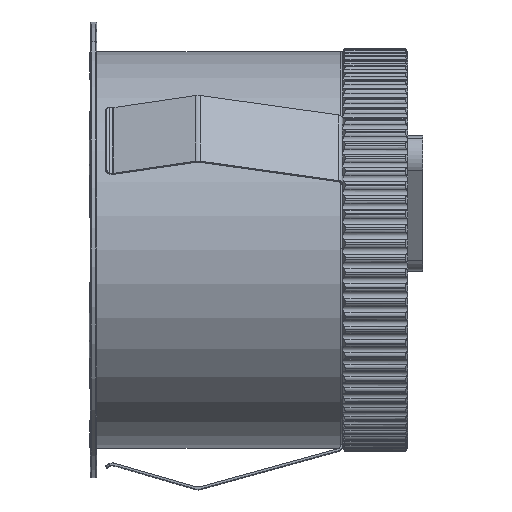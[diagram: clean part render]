
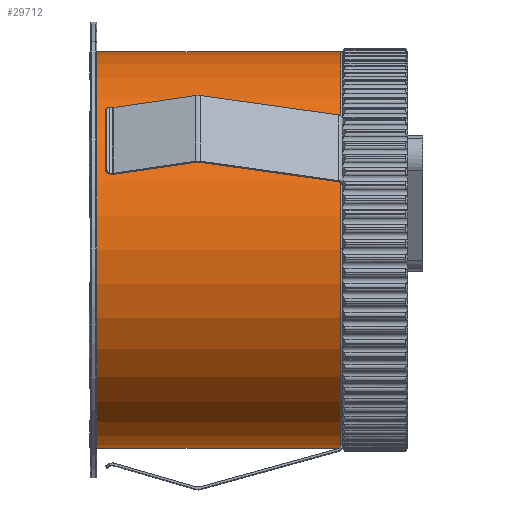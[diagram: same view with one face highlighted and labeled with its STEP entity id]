
A CAD part, left-side view. The second image highlights one B-rep face of the part: STEP entity #29712.
In plain terms, the highlighted cylindrical face has radius 26 mm (diameter 52 mm), a partial arc.
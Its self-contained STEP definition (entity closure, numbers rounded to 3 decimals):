
#620 = DIRECTION ( 'NONE',  ( 0., 1., 0. ) ) ;
#721 = ORIENTED_EDGE ( 'NONE', *, *, #14039, .F. ) ;
#2481 = CARTESIAN_POINT ( 'NONE',  ( 0., 32., 0. ) ) ;
#2710 = CARTESIAN_POINT ( 'NONE',  ( 0., 32., 26. ) ) ;
#5639 = EDGE_CURVE ( 'NONE', #40617, #16896, #27660, .T. ) ;
#6351 = VERTEX_POINT ( 'NONE', #2710 ) ;
#6894 = ORIENTED_EDGE ( 'NONE', *, *, #22266, .T. ) ;
#8408 = VECTOR ( 'NONE', #14687, 1000. ) ;
#9205 = CARTESIAN_POINT ( 'NONE',  ( 0., 79.536, -26. ) ) ;
#10979 = CIRCLE ( 'NONE', #22231, 26. ) ;
#11133 = CYLINDRICAL_SURFACE ( 'NONE', #47183, 26. ) ;
#11324 = EDGE_CURVE ( 'NONE', #14092, #6351, #10979, .T. ) ;
#11633 = DIRECTION ( 'NONE',  ( 0., 0., 1. ) ) ;
#14039 = EDGE_CURVE ( 'NONE', #40617, #14092, #20987, .T. ) ;
#14092 = VERTEX_POINT ( 'NONE', #28514 ) ;
#14687 = DIRECTION ( 'NONE',  ( 0., 1., 0. ) ) ;
#14715 = ORIENTED_EDGE ( 'NONE', *, *, #11324, .F. ) ;
#16896 = VERTEX_POINT ( 'NONE', #37923 ) ;
#17759 = DIRECTION ( 'NONE',  ( 0., 0., 1. ) ) ;
#18922 = DIRECTION ( 'NONE',  ( 0., 1., 0. ) ) ;
#20987 = LINE ( 'NONE', #9205, #44969 ) ;
#22231 = AXIS2_PLACEMENT_3D ( 'NONE', #2481, #40101, #17759 ) ;
#22266 = EDGE_CURVE ( 'NONE', #16896, #6351, #45077, .T. ) ;
#23195 = CARTESIAN_POINT ( 'NONE',  ( 0., 79.536, 0. ) ) ;
#23465 = ORIENTED_EDGE ( 'NONE', *, *, #5639, .T. ) ;
#26438 = DIRECTION ( 'NONE',  ( 0., 0., 1. ) ) ;
#27660 = CIRCLE ( 'NONE', #38868, 26. ) ;
#28514 = CARTESIAN_POINT ( 'NONE',  ( 0., 32., -26. ) ) ;
#29712 = ADVANCED_FACE ( 'NONE', ( #41754 ), #11133, .T. ) ;
#34214 = CARTESIAN_POINT ( 'NONE',  ( 0., 0., 0. ) ) ;
#36536 = DIRECTION ( 'NONE',  ( 0., 1., 0. ) ) ;
#37539 = CARTESIAN_POINT ( 'NONE',  ( 0., 79.536, 26. ) ) ;
#37923 = CARTESIAN_POINT ( 'NONE',  ( 0., 0., 26. ) ) ;
#38868 = AXIS2_PLACEMENT_3D ( 'NONE', #34214, #620, #11633 ) ;
#40101 = DIRECTION ( 'NONE',  ( 0., 1., 0. ) ) ;
#40617 = VERTEX_POINT ( 'NONE', #45116 ) ;
#41463 = EDGE_LOOP ( 'NONE', ( #721, #23465, #6894, #14715 ) ) ;
#41754 = FACE_OUTER_BOUND ( 'NONE', #41463, .T. ) ;
#44969 = VECTOR ( 'NONE', #36536, 1000. ) ;
#45077 = LINE ( 'NONE', #37539, #8408 ) ;
#45116 = CARTESIAN_POINT ( 'NONE',  ( 0., 0., -26. ) ) ;
#47183 = AXIS2_PLACEMENT_3D ( 'NONE', #23195, #18922, #26438 ) ;
